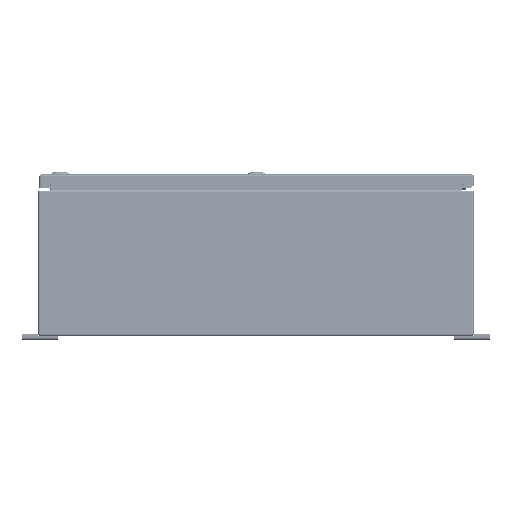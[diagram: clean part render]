
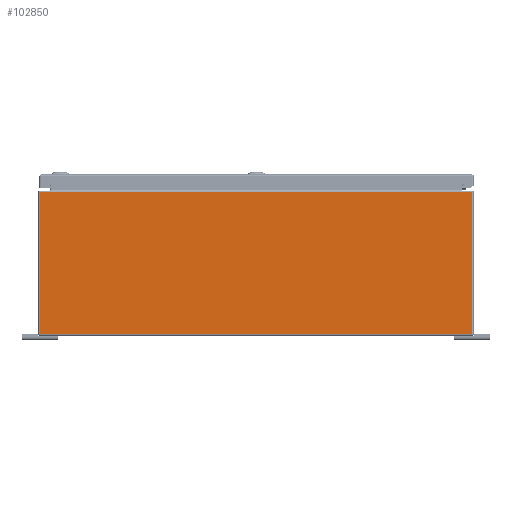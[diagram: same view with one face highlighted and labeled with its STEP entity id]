
A CAD part, left-side view. The second image highlights one B-rep face of the part: STEP entity #102850.
In plain terms, the highlighted planar face has unit normal (-1, 0, 0).
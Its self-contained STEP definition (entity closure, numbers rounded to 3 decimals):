
#6326=PLANE('',#110153);
#8940=LINE('',#145303,#17008);
#8941=LINE('',#145307,#17009);
#8942=LINE('',#145309,#17010);
#8943=LINE('',#145311,#17011);
#8944=LINE('',#145313,#17012);
#8945=LINE('',#145314,#17013);
#17008=VECTOR('',#119280,0.394);
#17009=VECTOR('',#119285,0.394);
#17010=VECTOR('',#119286,0.394);
#17011=VECTOR('',#119287,0.394);
#17012=VECTOR('',#119288,0.394);
#17013=VECTOR('',#119289,0.394);
#26708=FACE_OUTER_BOUND('',#32815,.T.);
#32815=EDGE_LOOP('',(#69724,#69725,#69726,#69727,#69728,#69729));
#43337=VERTEX_POINT('',#145285);
#43344=VERTEX_POINT('',#145302);
#43345=VERTEX_POINT('',#145306);
#43346=VERTEX_POINT('',#145308);
#43347=VERTEX_POINT('',#145310);
#43348=VERTEX_POINT('',#145312);
#53649=EDGE_CURVE('',#43337,#43344,#8940,.T.);
#53651=EDGE_CURVE('',#43345,#43337,#8941,.T.);
#53652=EDGE_CURVE('',#43345,#43346,#8942,.T.);
#53653=EDGE_CURVE('',#43347,#43346,#8943,.T.);
#53654=EDGE_CURVE('',#43348,#43347,#8944,.T.);
#53655=EDGE_CURVE('',#43348,#43344,#8945,.T.);
#69724=ORIENTED_EDGE('',*,*,#53651,.F.);
#69725=ORIENTED_EDGE('',*,*,#53652,.T.);
#69726=ORIENTED_EDGE('',*,*,#53653,.F.);
#69727=ORIENTED_EDGE('',*,*,#53654,.F.);
#69728=ORIENTED_EDGE('',*,*,#53655,.T.);
#69729=ORIENTED_EDGE('',*,*,#53649,.F.);
#102850=ADVANCED_FACE('',(#26708),#6326,.F.);
#110153=AXIS2_PLACEMENT_3D('',#145305,#119283,#119284);
#119280=DIRECTION('',(0.,0.,-1.));
#119283=DIRECTION('center_axis',(1.,0.,0.));
#119284=DIRECTION('ref_axis',(0.,0.,-1.));
#119285=DIRECTION('',(0.,-1.,0.));
#119286=DIRECTION('',(0.,1.,0.));
#119287=DIRECTION('',(0.,-1.,0.));
#119288=DIRECTION('',(0.,0.,1.));
#119289=DIRECTION('',(0.,-1.,0.));
#145285=CARTESIAN_POINT('',(-33.,-14.901,9.901));
#145302=CARTESIAN_POINT('',(-33.,-14.901,0.099));
#145303=CARTESIAN_POINT('',(-33.,-14.901,5.));
#145305=CARTESIAN_POINT('Origin',(-33.,0.,5.));
#145306=CARTESIAN_POINT('',(-33.,-14.126,9.901));
#145307=CARTESIAN_POINT('',(-33.,-7.475,9.901));
#145308=CARTESIAN_POINT('',(-33.,14.126,9.901));
#145309=CARTESIAN_POINT('',(-33.,7.455,9.901));
#145310=CARTESIAN_POINT('',(-33.,14.901,9.901));
#145311=CARTESIAN_POINT('',(-33.,-7.475,9.901));
#145312=CARTESIAN_POINT('',(-33.,14.901,0.099));
#145313=CARTESIAN_POINT('',(-33.,14.901,5.));
#145314=CARTESIAN_POINT('',(-33.,7.5,0.099));
